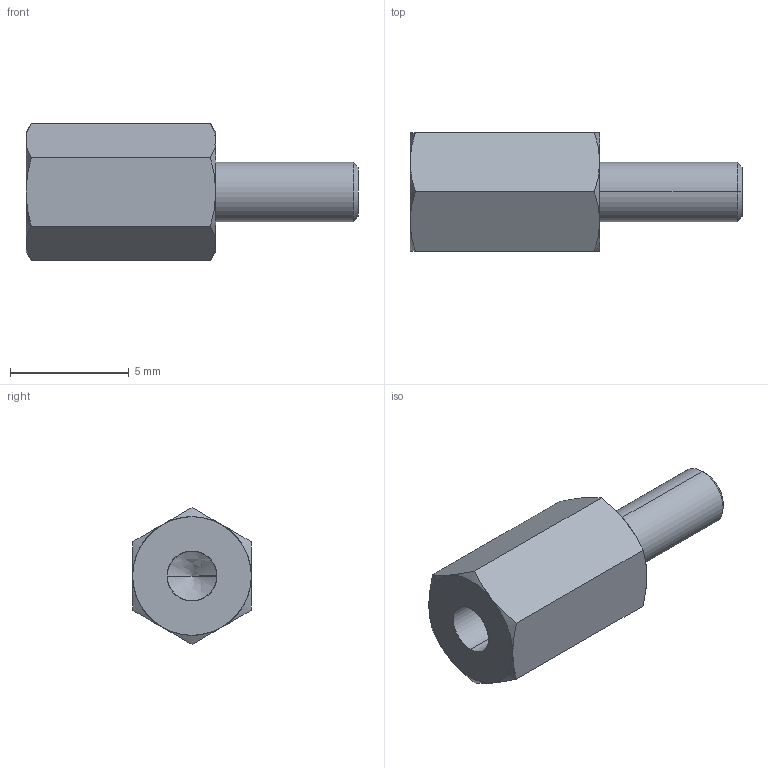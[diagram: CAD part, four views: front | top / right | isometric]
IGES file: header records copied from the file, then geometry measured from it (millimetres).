
Start section: SolidWorks IGES file using analytic representation for surfaces
Global section: file name: C:\Users\render1\Desktop\P0185_IGES\P0185.025-08.igs; native system: SolidWorks 2009; preprocessor: SolidWorks 2009; author: render1; date: 130627.111447; units: millimetre
Bounding box: 14 x 5 x 5.77 mm (x, y, z)
Surface area: 259.5 mm2 (no closed solid volume)
Topology: 0 solids, 0 shells, 29 faces, 324 edges, 322 vertices
Faces by surface type: revolution 20, bspline 9
